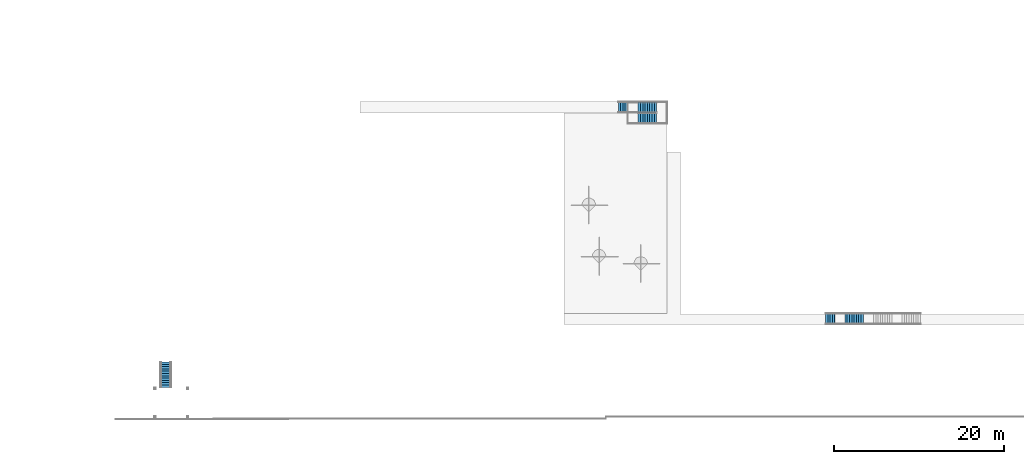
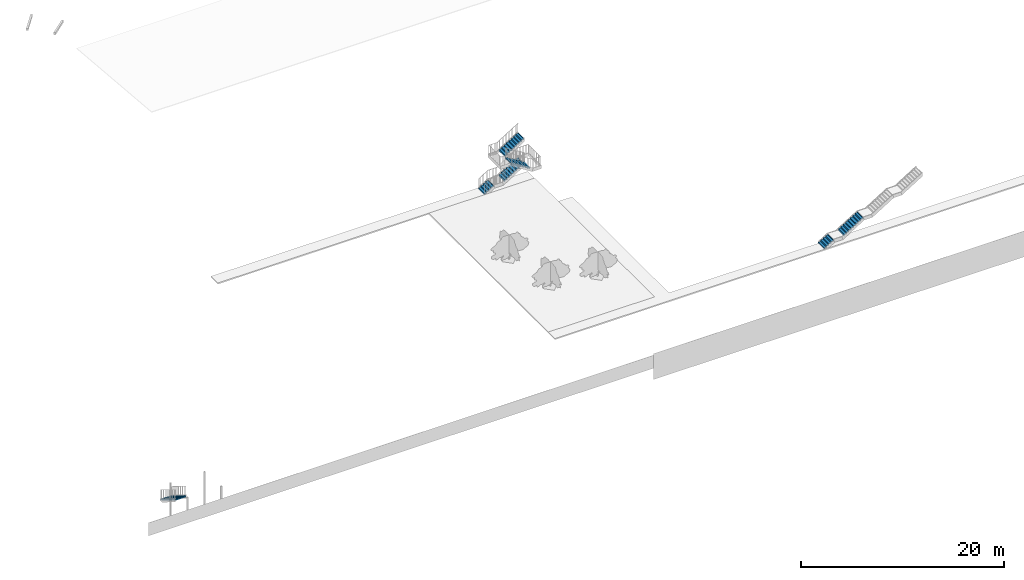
# One storey, part 7 of 16: 7 stair flights, 3 elements without a shape of their own.
"""IFC2X3 building model written with IfcOpenShell, lengths in millimetres."""

from ifc_helpers import new_model, entity, si_unit, converted_unit, derived_unit, direction, frame, frame_2d, origin, origin_2d_with_axis, place, context, subcontext, project, spatial, rectangle, extrude, element, aggregate, save


model = new_model("IFC2X3")

# Units and contexts
model_context = context("Model", 3, precision=0.01, world=origin(), true_north=direction((4.05803320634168e-15, -1.0)))
body_context = subcontext(model_context, "Body", "Model", "MODEL_VIEW")
ifc_project = project(units=[si_unit("LENGTHUNIT", "METRE", prefix="MILLI"), si_unit("AREAUNIT", "SQUARE_METRE"), si_unit("VOLUMEUNIT", "CUBIC_METRE"), converted_unit("PLANEANGLEUNIT", "DEGREE", entity("IfcRatioMeasure", 0.0174532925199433), si_unit("PLANEANGLEUNIT", "RADIAN"), dimensions=[0, 0, 0, 0, 0, 0, 0]), si_unit("MASSUNIT", "GRAM", prefix="KILO"), derived_unit("MASSDENSITYUNIT", [(si_unit("MASSUNIT", "GRAM", prefix="KILO"), 1), (si_unit("LENGTHUNIT", "METRE"), -3)]), si_unit("TIMEUNIT", "SECOND"), si_unit("FREQUENCYUNIT", "HERTZ"), si_unit("THERMODYNAMICTEMPERATUREUNIT", "DEGREE_CELSIUS"), derived_unit("THERMALTRANSMITTANCEUNIT", [(si_unit("MASSUNIT", "GRAM", prefix="KILO"), 1), (si_unit("THERMODYNAMICTEMPERATUREUNIT", "KELVIN"), -1), (si_unit("TIMEUNIT", "SECOND"), -3)]), derived_unit("VOLUMETRICFLOWRATEUNIT", [(si_unit("LENGTHUNIT", "METRE"), 3), (si_unit("TIMEUNIT", "SECOND"), -1)]), si_unit("ELECTRICCURRENTUNIT", "AMPERE"), si_unit("ELECTRICVOLTAGEUNIT", "VOLT"), si_unit("POWERUNIT", "WATT"), si_unit("FORCEUNIT", "NEWTON", prefix="KILO"), si_unit("ILLUMINANCEUNIT", "LUX"), si_unit("LUMINOUSFLUXUNIT", "LUMEN"), si_unit("LUMINOUSINTENSITYUNIT", "CANDELA"), derived_unit("USERDEFINED", [(si_unit("MASSUNIT", "GRAM", prefix="KILO"), -1), (si_unit("LENGTHUNIT", "METRE"), -2), (si_unit("TIMEUNIT", "SECOND"), 3), (si_unit("LUMINOUSFLUXUNIT", "LUMEN"), 1)]), derived_unit("LINEARVELOCITYUNIT", [(si_unit("LENGTHUNIT", "METRE"), 1), (si_unit("TIMEUNIT", "SECOND"), -1)]), si_unit("PRESSUREUNIT", "PASCAL"), derived_unit("USERDEFINED", [(si_unit("LENGTHUNIT", "METRE"), -2), (si_unit("MASSUNIT", "GRAM", prefix="KILO"), 1), (si_unit("TIMEUNIT", "SECOND"), -2)])], contexts=[model_context])

# Site, building, storey
site_placement = place(None, frame((927466.849349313, 583801.882853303, 0.0), z_axis=(0.0, 0.0, 1.0), x_axis=(-1.0, 0.0, 0.0)))
site = spatial("IfcSite", under=ifc_project, at=site_placement, Name="Surface", CompositionType="ELEMENT")
building_placement = place(site_placement, origin())
building = spatial("IfcBuilding", under=site, at=building_placement, CompositionType="ELEMENT")
storey_placement = place(building_placement, frame((0.0, 0.0, 42810.0)))
storey = spatial("IfcBuildingStorey", under=building, at=storey_placement, Name="Hardstand", CompositionType="ELEMENT", Elevation=42810.0)

# Stair, stair flights
stair_1_placement = place(storey_placement, origin())
stair_1 = element("IfcStair", 1, at=stair_1_placement, inside=storey, Name="Assembled Stair:Stair", ObjectType="Assembled Stair:170mm max riser 270mm going", ShapeType="NOTDEFINED")
stair_flight_1_placement = place(stair_1_placement, origin())
stair_flight_1 = element("IfcStairFlight", 2, at=stair_flight_1_placement, Name="Assembled Stair:Stair:622611 Run 3", ObjectType="Assembled Stair:170mm max riser 270mm going", NumberOfRiser=9, NumberOfTreads=8, RiserHeight=0.549540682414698, TreadLength=0.885826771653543, context=body_context, shape_type="SweptSolid", body=[
    extrude(rectangle(XDim=1200.0, YDim=12.5000000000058, at=origin_2d_with_axis()), frame((-100104.121944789, 37578.2777512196, 787.499999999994), z_axis=(0.0, 0.0, 1.0), x_axis=(0.0, -1.0, 0.0)), (0.0, 0.0, 1.0), 167.500000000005),
    extrude(rectangle(XDim=270.000000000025, YDim=1200.0, at=frame_2d((-8.66862137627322e-12, 0.0), x_axis=(1.0, 0.0))), frame((-100232.871944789, 37578.2777512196, 955.0)), (0.0, 0.0, 1.0), 49.9999999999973),
    extrude(rectangle(XDim=1200.0, YDim=12.5000000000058, at=frame_2d((0.0, 8.66329230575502e-12), x_axis=(1.0, 0.0))), frame((-100374.121944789, 37578.2777512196, 955.0), z_axis=(0.0, 0.0, 1.0), x_axis=(0.0, -1.0, 0.0)), (0.0, 0.0, 1.0), 167.500000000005),
    extrude(rectangle(XDim=269.999999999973, YDim=1200.0, at=frame_2d((1.73230318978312e-11, -4.32009983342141e-12), x_axis=(1.0, 0.0))), frame((-100502.871944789, 37578.2777512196, 1122.5)), (0.0, 0.0, 1.0), 49.9999999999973),
    extrude(rectangle(XDim=1200.0, YDim=12.5000000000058, at=frame_2d((0.0, 8.66329230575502e-12), x_axis=(1.0, 0.0))), frame((-100644.121944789, 37578.2777512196, 1122.5), z_axis=(0.0, 0.0, 1.0), x_axis=(0.0, -1.0, 0.0)), (0.0, 0.0, 1.0), 167.500000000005),
    extrude(rectangle(XDim=269.999999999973, YDim=1200.0, at=frame_2d((0.0, -4.32009983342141e-12), x_axis=(1.0, 0.0))), frame((-100772.871944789, 37578.2777512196, 1290.0)), (0.0, 0.0, 1.0), 49.9999999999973),
    extrude(rectangle(XDim=1200.0, YDim=12.5000000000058, at=frame_2d((0.0, 8.66329230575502e-12), x_axis=(1.0, 0.0))), frame((-100914.121944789, 37578.2777512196, 1290.0), z_axis=(0.0, 0.0, 1.0), x_axis=(0.0, -1.0, 0.0)), (0.0, 0.0, 1.0), 167.500000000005),
    extrude(rectangle(XDim=269.999999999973, YDim=1200.0, at=frame_2d((1.73230318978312e-11, -4.32009983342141e-12), x_axis=(1.0, 0.0))), frame((-101042.871944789, 37578.2777512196, 1457.50000000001)), (0.0, 0.0, 1.0), 49.9999999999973),
    extrude(rectangle(XDim=1200.0, YDim=12.5000000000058, at=frame_2d((0.0, -8.66329230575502e-12), x_axis=(1.0, 0.0))), frame((-101184.121944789, 37578.2777512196, 1457.5), z_axis=(0.0, 0.0, 1.0), x_axis=(0.0, -1.0, 0.0)), (0.0, 0.0, 1.0), 167.500000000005),
    extrude(rectangle(XDim=269.999999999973, YDim=1200.0, at=frame_2d((1.73230318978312e-11, -4.32009983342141e-12), x_axis=(1.0, 0.0))), frame((-101312.871944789, 37578.2777512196, 1625.0)), (0.0, 0.0, 1.0), 49.9999999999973),
    extrude(rectangle(XDim=1200.0, YDim=12.5000000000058, at=frame_2d((0.0, 8.66329230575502e-12), x_axis=(1.0, 0.0))), frame((-101454.121944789, 37578.2777512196, 1625.0), z_axis=(0.0, 0.0, 1.0), x_axis=(0.0, -1.0, 0.0)), (0.0, 0.0, 1.0), 167.500000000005),
    extrude(rectangle(XDim=269.999999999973, YDim=1200.0, at=frame_2d((0.0, -4.32009983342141e-12), x_axis=(1.0, 0.0))), frame((-101582.871944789, 37578.2777512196, 1792.5)), (0.0, 0.0, 1.0), 49.9999999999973),
    extrude(rectangle(XDim=1200.0, YDim=12.5000000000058, at=frame_2d((4.32009983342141e-12, -8.66329230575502e-12), x_axis=(1.0, 0.0))), frame((-101724.121944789, 37578.2777512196, 1792.5), z_axis=(0.0, 0.0, 1.0), x_axis=(0.0, -1.0, 0.0)), (0.0, 0.0, 1.0), 167.500000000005),
    extrude(rectangle(XDim=269.999999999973, YDim=1200.0, at=frame_2d((1.73230318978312e-11, -4.32009983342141e-12), x_axis=(1.0, 0.0))), frame((-101852.871944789, 37578.2777512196, 1960.0)), (0.0, 0.0, 1.0), 49.9999999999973),
    extrude(rectangle(XDim=1200.0, YDim=12.5000000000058, at=frame_2d((4.32009983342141e-12, -8.66329230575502e-12), x_axis=(1.0, 0.0))), frame((-101994.121944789, 37578.2777512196, 1960.0), z_axis=(0.0, 0.0, 1.0), x_axis=(0.0, -1.0, 0.0)), (0.0, 0.0, 1.0), 167.500000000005),
    extrude(rectangle(XDim=1200.0, YDim=12.5000000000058, at=origin_2d_with_axis()), frame((-102264.121944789, 37578.2777512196, 2127.5), z_axis=(0.0, 0.0, 1.0), x_axis=(0.0, -1.0, 0.0)), (0.0, 0.0, 1.0), 167.499999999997),
    extrude(rectangle(XDim=269.999999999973, YDim=1200.0, at=frame_2d((1.73230318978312e-11, -4.32009983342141e-12), x_axis=(1.0, 0.0))), frame((-102122.871944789, 37578.2777512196, 2127.5)), (0.0, 0.0, 1.0), 49.9999999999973),
])
stair_flight_2_placement = place(stair_1_placement, origin())
stair_flight_2 = element("IfcStairFlight", 3, at=stair_flight_2_placement, Name="Assembled Stair:Stair:622611 Run 4", ObjectType="Assembled Stair:170mm max riser 270mm going", NumberOfRiser=5, NumberOfTreads=4, RiserHeight=0.549540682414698, TreadLength=0.885826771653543, context=body_context, shape_type="SweptSolid", body=[
    extrude(rectangle(XDim=1200.0, YDim=12.5000000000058, at=frame_2d((-4.32009983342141e-12, 0.0), x_axis=(1.0, 0.0))), frame((-97824.1219447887, 37578.2777512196, 0.0), z_axis=(0.0, 0.0, 1.0), x_axis=(0.0, -1.0, 0.0)), (0.0, 0.0, 1.0), 117.499999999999),
    extrude(rectangle(XDim=270.000000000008, YDim=1200.0, at=frame_2d((0.0, 4.32009983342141e-12), x_axis=(1.0, 0.0))), frame((-97952.8719447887, 37578.2777512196, 117.499999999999)), (0.0, 0.0, 1.0), 49.9999999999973),
    extrude(rectangle(XDim=1200.0, YDim=12.5000000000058, at=frame_2d((-4.32009983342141e-12, 0.0), x_axis=(1.0, 0.0))), frame((-98094.1219447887, 37578.2777512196, 117.499999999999), z_axis=(0.0, 0.0, 1.0), x_axis=(0.0, -1.0, 0.0)), (0.0, 0.0, 1.0), 167.500000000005),
    extrude(rectangle(XDim=270.000000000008, YDim=1200.0, at=frame_2d((-1.73230318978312e-11, 0.0), x_axis=(1.0, 0.0))), frame((-98222.8719447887, 37578.2777512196, 285.0)), (0.0, 0.0, 1.0), 49.9999999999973),
    extrude(rectangle(XDim=1200.0, YDim=12.5000000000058, at=frame_2d((-4.32009983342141e-12, 0.0), x_axis=(1.0, 0.0))), frame((-98364.1219447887, 37578.2777512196, 285.0), z_axis=(0.0, 0.0, 1.0), x_axis=(0.0, -1.0, 0.0)), (0.0, 0.0, 1.0), 167.500000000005),
    extrude(rectangle(XDim=270.000000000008, YDim=1200.0, at=frame_2d((-1.73230318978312e-11, 0.0), x_axis=(1.0, 0.0))), frame((-98492.8719447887, 37578.2777512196, 452.500000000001)), (0.0, 0.0, 1.0), 49.9999999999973),
    extrude(rectangle(XDim=1200.0, YDim=12.5000000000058, at=frame_2d((-4.32009983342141e-12, 0.0), x_axis=(1.0, 0.0))), frame((-98634.1219447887, 37578.2777512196, 452.500000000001), z_axis=(0.0, 0.0, 1.0), x_axis=(0.0, -1.0, 0.0)), (0.0, 0.0, 1.0), 167.500000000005),
    extrude(rectangle(XDim=1200.0, YDim=12.5000000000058, at=origin_2d_with_axis()), frame((-98904.1219447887, 37578.2777512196, 620.0), z_axis=(0.0, 0.0, 1.0), x_axis=(0.0, -1.0, 0.0)), (0.0, 0.0, 1.0), 167.499999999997),
    extrude(rectangle(XDim=270.000000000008, YDim=1200.0, at=frame_2d((-1.73230318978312e-11, 0.0), x_axis=(1.0, 0.0))), frame((-98762.8719447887, 37578.2777512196, 620.0)), (0.0, 0.0, 1.0), 49.9999999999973),
])
aggregate(stair_1, [stair_flight_1, stair_flight_2])

# Stair, stair flight
stair_2_placement = place(storey_placement, origin())
stair_2 = element("IfcStair", 4, at=stair_2_placement, inside=storey, Name="Assembled Stair:Stair", ObjectType="Assembled Stair:170mm max riser 270mm going", ShapeType="NOTDEFINED")
stair_flight_3_placement = place(stair_2_placement, origin())
stair_flight_3 = element("IfcStairFlight", 5, at=stair_flight_3_placement, Name="Assembled Stair:Stair:712789 Run 1", ObjectType="Assembled Stair:170mm max riser 270mm going", NumberOfRiser=12, NumberOfTreads=11, RiserHeight=0.546806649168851, TreadLength=0.885826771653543, context=body_context, shape_type="SweptSolid", body=[
    extrude(rectangle(XDim=1200.0, YDim=12.4999999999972, at=frame_2d((0.0, -4.33164615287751e-12), x_axis=(1.0, 0.0))), frame((-20269.5693282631, 42675.7491707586, -90.0), z_axis=(0.0, 0.0, 1.0), x_axis=(-1.0, 0.0, 0.0)), (0.0, 0.0, 1.0), 116.666666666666),
    extrude(rectangle(XDim=269.999999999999, YDim=1200.0, at=frame_2d((-4.32009983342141e-12, 0.0), x_axis=(1.0, 0.0))), frame((-20269.5693282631, 42804.4991707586, 26.6666666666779), z_axis=(0.0, 0.0, 1.0), x_axis=(0.0, -1.0, 0.0)), (0.0, 0.0, 1.0), 49.9999999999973),
    extrude(rectangle(XDim=1200.0, YDim=12.4999999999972, at=frame_2d((0.0, 4.33164615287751e-12), x_axis=(1.0, 0.0))), frame((-20269.5693282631, 42945.7491707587, 26.6666666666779), z_axis=(0.0, 0.0, 1.0), x_axis=(-1.0, 0.0, 0.0)), (0.0, 0.0, 1.0), 166.666666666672),
    extrude(rectangle(XDim=269.999999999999, YDim=1200.0, at=frame_2d((4.32009983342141e-12, 0.0), x_axis=(1.0, 0.0))), frame((-20269.5693282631, 43074.4991707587, 193.33333333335), z_axis=(0.0, 0.0, 1.0), x_axis=(0.0, -1.0, 0.0)), (0.0, 0.0, 1.0), 49.9999999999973),
    extrude(rectangle(XDim=1200.0, YDim=12.4999999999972, at=frame_2d((0.0, 4.33164615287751e-12), x_axis=(1.0, 0.0))), frame((-20269.5693282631, 43215.7491707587, 193.333333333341), z_axis=(0.0, 0.0, 1.0), x_axis=(-1.0, 0.0, 0.0)), (0.0, 0.0, 1.0), 166.666666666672),
    extrude(rectangle(XDim=269.999999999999, YDim=1200.0, at=frame_2d((-4.32009983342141e-12, 0.0), x_axis=(1.0, 0.0))), frame((-20269.5693282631, 43344.4991707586, 360.0), z_axis=(0.0, 0.0, 1.0), x_axis=(0.0, -1.0, 0.0)), (0.0, 0.0, 1.0), 49.9999999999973),
    extrude(rectangle(XDim=1200.0, YDim=12.4999999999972, at=frame_2d((0.0, 4.33164615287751e-12), x_axis=(1.0, 0.0))), frame((-20269.5693282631, 43485.7491707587, 360.0), z_axis=(0.0, 0.0, 1.0), x_axis=(-1.0, 0.0, 0.0)), (0.0, 0.0, 1.0), 166.666666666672),
    extrude(rectangle(XDim=269.999999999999, YDim=1200.0, at=frame_2d((4.32009983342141e-12, 0.0), x_axis=(1.0, 0.0))), frame((-20269.5693282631, 43614.4991707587, 526.666666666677), z_axis=(0.0, 0.0, 1.0), x_axis=(0.0, -1.0, 0.0)), (0.0, 0.0, 1.0), 49.9999999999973),
    extrude(rectangle(XDim=1200.0, YDim=12.4999999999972, at=frame_2d((0.0, -4.33164615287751e-12), x_axis=(1.0, 0.0))), frame((-20269.5693282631, 43755.7491707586, 526.666666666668), z_axis=(0.0, 0.0, 1.0), x_axis=(-1.0, 0.0, 0.0)), (0.0, 0.0, 1.0), 166.666666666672),
    extrude(rectangle(XDim=269.999999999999, YDim=1200.0, at=frame_2d((-4.32009983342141e-12, 0.0), x_axis=(1.0, 0.0))), frame((-20269.5693282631, 43884.4991707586, 693.33333333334), z_axis=(0.0, 0.0, 1.0), x_axis=(0.0, -1.0, 0.0)), (0.0, 0.0, 1.0), 49.9999999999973),
    extrude(rectangle(XDim=1200.0, YDim=12.4999999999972, at=frame_2d((0.0, 4.33164615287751e-12), x_axis=(1.0, 0.0))), frame((-20269.5693282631, 44025.7491707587, 693.33333333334), z_axis=(0.0, 0.0, 1.0), x_axis=(-1.0, 0.0, 0.0)), (0.0, 0.0, 1.0), 166.666666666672),
    extrude(rectangle(XDim=269.999999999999, YDim=1200.0, at=frame_2d((4.32009983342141e-12, 0.0), x_axis=(1.0, 0.0))), frame((-20269.5693282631, 44154.4991707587, 860.0), z_axis=(0.0, 0.0, 1.0), x_axis=(0.0, -1.0, 0.0)), (0.0, 0.0, 1.0), 49.9999999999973),
    extrude(rectangle(XDim=1200.0, YDim=12.4999999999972, at=frame_2d((0.0, 4.33164615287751e-12), x_axis=(1.0, 0.0))), frame((-20269.5693282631, 44295.7491707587, 860.0), z_axis=(0.0, 0.0, 1.0), x_axis=(-1.0, 0.0, 0.0)), (0.0, 0.0, 1.0), 166.666666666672),
    extrude(rectangle(XDim=269.999999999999, YDim=1200.0, at=frame_2d((4.32009983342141e-12, 0.0), x_axis=(1.0, 0.0))), frame((-20269.5693282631, 44424.4991707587, 1026.66666666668), z_axis=(0.0, 0.0, 1.0), x_axis=(0.0, -1.0, 0.0)), (0.0, 0.0, 1.0), 49.9999999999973),
    extrude(rectangle(XDim=1200.0, YDim=12.4999999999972, at=frame_2d((0.0, 4.33164615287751e-12), x_axis=(1.0, 0.0))), frame((-20269.5693282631, 44565.7491707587, 1026.66666666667), z_axis=(0.0, 0.0, 1.0), x_axis=(-1.0, 0.0, 0.0)), (0.0, 0.0, 1.0), 166.666666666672),
    extrude(rectangle(XDim=269.999999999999, YDim=1200.0, at=frame_2d((-4.32009983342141e-12, 0.0), x_axis=(1.0, 0.0))), frame((-20269.5693282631, 44694.4991707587, 1193.33333333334), z_axis=(0.0, 0.0, 1.0), x_axis=(0.0, -1.0, 0.0)), (0.0, 0.0, 1.0), 49.9999999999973),
    extrude(rectangle(XDim=1200.0, YDim=12.4999999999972, at=frame_2d((0.0, 4.33164615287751e-12), x_axis=(1.0, 0.0))), frame((-20269.5693282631, 44835.7491707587, 1193.33333333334), z_axis=(0.0, 0.0, 1.0), x_axis=(-1.0, 0.0, 0.0)), (0.0, 0.0, 1.0), 166.666666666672),
    extrude(rectangle(XDim=269.999999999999, YDim=1200.0, at=frame_2d((4.32009983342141e-12, 0.0), x_axis=(1.0, 0.0))), frame((-20269.5693282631, 44964.4991707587, 1360.0), z_axis=(0.0, 0.0, 1.0), x_axis=(0.0, -1.0, 0.0)), (0.0, 0.0, 1.0), 49.9999999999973),
    extrude(rectangle(XDim=1200.0, YDim=12.4999999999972, at=frame_2d((0.0, -4.33164615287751e-12), x_axis=(1.0, 0.0))), frame((-20269.5693282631, 45105.7491707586, 1360.0), z_axis=(0.0, 0.0, 1.0), x_axis=(-1.0, 0.0, 0.0)), (0.0, 0.0, 1.0), 166.666666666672),
    extrude(rectangle(XDim=269.999999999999, YDim=1200.0, at=frame_2d((-4.32009983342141e-12, 0.0), x_axis=(1.0, 0.0))), frame((-20269.5693282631, 45234.4991707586, 1526.66666666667), z_axis=(0.0, 0.0, 1.0), x_axis=(0.0, -1.0, 0.0)), (0.0, 0.0, 1.0), 49.9999999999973),
    extrude(rectangle(XDim=1200.0, YDim=12.4999999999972, at=frame_2d((0.0, 4.33164615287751e-12), x_axis=(1.0, 0.0))), frame((-20269.5693282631, 45375.7491707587, 1526.66666666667), z_axis=(0.0, 0.0, 1.0), x_axis=(-1.0, 0.0, 0.0)), (0.0, 0.0, 1.0), 166.666666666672),
    extrude(rectangle(XDim=1200.0, YDim=12.4999999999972, at=frame_2d((0.0, 4.33164615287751e-12), x_axis=(1.0, 0.0))), frame((-20269.5693282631, 45645.7491707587, 1693.33333333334), z_axis=(0.0, 0.0, 1.0), x_axis=(-1.0, 0.0, 0.0)), (0.0, 0.0, 1.0), 166.666666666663),
    extrude(rectangle(XDim=269.999999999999, YDim=1200.0, at=frame_2d((4.32009983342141e-12, 0.0), x_axis=(1.0, 0.0))), frame((-20269.5693282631, 45504.4991707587, 1693.33333333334), z_axis=(0.0, 0.0, 1.0), x_axis=(0.0, -1.0, 0.0)), (0.0, 0.0, 1.0), 49.9999999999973),
])
aggregate(stair_2, [stair_flight_3])

# Stair, stair flights
stair_3_placement = place(storey_placement, origin())
stair_3 = element("IfcStair", 6, at=stair_3_placement, inside=storey, Name="Assembled Stair:Stair", ObjectType="Assembled Stair:170mm max riser 270mm going", ShapeType="NOTDEFINED")
stair_flight_4_placement = place(stair_3_placement, origin())
stair_flight_4 = element("IfcStairFlight", 7, at=stair_flight_4_placement, Name="Assembled Stair:Stair:767068 Run 1", ObjectType="Assembled Stair:170mm max riser 270mm going", NumberOfRiser=9, NumberOfTreads=8, RiserHeight=0.549540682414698, TreadLength=0.885826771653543, context=body_context, shape_type="SweptSolid", body=[
    extrude(rectangle(XDim=1200.0, YDim=12.4999999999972, at=frame_2d((0.0, -4.33164615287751e-12), x_axis=(1.0, 0.0))), frame((-75804.8413038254, 12792.1710387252, 3802.49999999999), z_axis=(0.0, 0.0, 1.0), x_axis=(0.0, -1.0, 0.0)), (0.0, 0.0, 1.0), 167.500000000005),
    extrude(rectangle(XDim=270.000000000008, YDim=1200.0, at=origin_2d_with_axis()), frame((-75933.5913038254, 12792.1710387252, 3970.0)), (0.0, 0.0, 1.0), 49.9999999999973),
    extrude(rectangle(XDim=1200.0, YDim=12.4999999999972, at=origin_2d_with_axis()), frame((-76074.8413038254, 12792.1710387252, 3970.0), z_axis=(0.0, 0.0, 1.0), x_axis=(0.0, -1.0, 0.0)), (0.0, 0.0, 1.0), 167.500000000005),
    extrude(rectangle(XDim=269.999999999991, YDim=1200.0, at=frame_2d((0.0, 1.08002495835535e-12), x_axis=(1.0, 0.0))), frame((-76203.5913038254, 12792.1710387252, 4137.5)), (0.0, 0.0, 1.0), 49.9999999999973),
    extrude(rectangle(XDim=1200.0, YDim=12.4999999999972, at=frame_2d((0.0, -8.66284821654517e-12), x_axis=(1.0, 0.0))), frame((-76344.8413038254, 12792.1710387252, 4137.49999999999), z_axis=(0.0, 0.0, 1.0), x_axis=(0.0, -1.0, 0.0)), (0.0, 0.0, 1.0), 167.500000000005),
    extrude(rectangle(XDim=269.999999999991, YDim=1200.0, at=frame_2d((0.0, 1.08002495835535e-12), x_axis=(1.0, 0.0))), frame((-76473.5913038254, 12792.1710387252, 4305.0)), (0.0, 0.0, 1.0), 49.9999999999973),
    extrude(rectangle(XDim=1200.0, YDim=12.4999999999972, at=origin_2d_with_axis()), frame((-76614.8413038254, 12792.1710387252, 4305.0), z_axis=(0.0, 0.0, 1.0), x_axis=(0.0, -1.0, 0.0)), (0.0, 0.0, 1.0), 167.500000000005),
    extrude(rectangle(XDim=269.999999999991, YDim=1200.0, at=frame_2d((0.0, 1.08002495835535e-12), x_axis=(1.0, 0.0))), frame((-76743.5913038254, 12792.1710387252, 4472.50000000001)), (0.0, 0.0, 1.0), 49.9999999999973),
    extrude(rectangle(XDim=1200.0, YDim=12.4999999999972, at=origin_2d_with_axis()), frame((-76884.8413038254, 12792.1710387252, 4472.5), z_axis=(0.0, 0.0, 1.0), x_axis=(0.0, -1.0, 0.0)), (0.0, 0.0, 1.0), 167.500000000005),
    extrude(rectangle(XDim=269.999999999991, YDim=1200.0, at=frame_2d((8.65441052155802e-12, 1.08002495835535e-12), x_axis=(1.0, 0.0))), frame((-77013.5913038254, 12792.1710387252, 4640.0)), (0.0, 0.0, 1.0), 49.9999999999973),
    extrude(rectangle(XDim=1200.0, YDim=12.4999999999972, at=origin_2d_with_axis()), frame((-77154.8413038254, 12792.1710387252, 4640.0), z_axis=(0.0, 0.0, 1.0), x_axis=(0.0, -1.0, 0.0)), (0.0, 0.0, 1.0), 167.500000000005),
    extrude(rectangle(XDim=269.999999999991, YDim=1200.0, at=frame_2d((0.0, 1.08002495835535e-12), x_axis=(1.0, 0.0))), frame((-77283.5913038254, 12792.1710387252, 4807.5)), (0.0, 0.0, 1.0), 49.9999999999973),
    extrude(rectangle(XDim=1200.0, YDim=12.4999999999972, at=origin_2d_with_axis()), frame((-77424.8413038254, 12792.1710387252, 4807.5), z_axis=(0.0, 0.0, 1.0), x_axis=(0.0, -1.0, 0.0)), (0.0, 0.0, 1.0), 167.500000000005),
    extrude(rectangle(XDim=269.999999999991, YDim=1200.0, at=frame_2d((8.65441052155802e-12, -1.08002495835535e-12), x_axis=(1.0, 0.0))), frame((-77553.5913038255, 12792.1710387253, 4975.0)), (0.0, 0.0, 1.0), 49.9999999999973),
    extrude(rectangle(XDim=1200.0, YDim=12.4999999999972, at=frame_2d((0.0, -8.66284821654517e-12), x_axis=(1.0, 0.0))), frame((-77694.8413038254, 12792.1710387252, 4975.0), z_axis=(0.0, 0.0, 1.0), x_axis=(0.0, -1.0, 0.0)), (0.0, 0.0, 1.0), 167.500000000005),
    extrude(rectangle(XDim=1200.0, YDim=12.4999999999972, at=frame_2d((0.0, -4.33164615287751e-12), x_axis=(1.0, 0.0))), frame((-77964.8413038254, 12792.1710387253, 5142.5), z_axis=(0.0, 0.0, 1.0), x_axis=(0.0, -1.0, 0.0)), (0.0, 0.0, 1.0), 167.499999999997),
    extrude(rectangle(XDim=269.999999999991, YDim=1200.0, at=frame_2d((0.0, -1.08002495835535e-12), x_axis=(1.0, 0.0))), frame((-77823.5913038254, 12792.1710387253, 5142.5)), (0.0, 0.0, 1.0), 49.9999999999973),
])
stair_flight_5_placement = place(stair_3_placement, origin())
stair_flight_5 = element("IfcStairFlight", 8, at=stair_flight_5_placement, Name="Assembled Stair:Stair:767068 Run 2", ObjectType="Assembled Stair:170mm max riser 270mm going", NumberOfRiser=9, NumberOfTreads=8, RiserHeight=0.549540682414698, TreadLength=0.885826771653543, context=body_context, shape_type="SweptSolid", body=[
    extrude(rectangle(XDim=1200.0, YDim=12.4999999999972, at=frame_2d((0.0, -4.33164615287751e-12), x_axis=(1.0, 0.0))), frame((-77952.3413038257, 13992.1710387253, 2295.0), z_axis=(0.0, 0.0, 1.0), x_axis=(0.0, 1.0, 0.0)), (0.0, 0.0, 1.0), 167.500000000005),
    extrude(rectangle(XDim=270.000000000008, YDim=1200.0, at=origin_2d_with_axis()), frame((-77823.5913038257, 13992.1710387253, 2462.5), z_axis=(0.0, 0.0, 1.0), x_axis=(-1.0, 0.0, 0.0)), (0.0, 0.0, 1.0), 49.9999999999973),
    extrude(rectangle(XDim=1200.0, YDim=12.4999999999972, at=origin_2d_with_axis()), frame((-77682.3413038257, 13992.1710387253, 2462.5), z_axis=(0.0, 0.0, 1.0), x_axis=(0.0, 1.0, 0.0)), (0.0, 0.0, 1.0), 167.500000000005),
    extrude(rectangle(XDim=269.999999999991, YDim=1200.0, at=frame_2d((0.0, 1.08002495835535e-12), x_axis=(1.0, 0.0))), frame((-77553.5913038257, 13992.1710387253, 2630.0), z_axis=(0.0, 0.0, 1.0), x_axis=(-1.0, 0.0, 0.0)), (0.0, 0.0, 1.0), 49.9999999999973),
    extrude(rectangle(XDim=1200.0, YDim=12.4999999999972, at=frame_2d((0.0, -8.66284821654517e-12), x_axis=(1.0, 0.0))), frame((-77412.3413038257, 13992.1710387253, 2630.0), z_axis=(0.0, 0.0, 1.0), x_axis=(0.0, 1.0, 0.0)), (0.0, 0.0, 1.0), 167.500000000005),
    extrude(rectangle(XDim=269.999999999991, YDim=1200.0, at=frame_2d((0.0, 1.08002495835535e-12), x_axis=(1.0, 0.0))), frame((-77283.5913038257, 13992.1710387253, 2797.50000000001), z_axis=(0.0, 0.0, 1.0), x_axis=(-1.0, 0.0, 0.0)), (0.0, 0.0, 1.0), 49.9999999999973),
    extrude(rectangle(XDim=1200.0, YDim=12.4999999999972, at=origin_2d_with_axis()), frame((-77142.3413038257, 13992.1710387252, 2797.50000000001), z_axis=(0.0, 0.0, 1.0), x_axis=(0.0, 1.0, 0.0)), (0.0, 0.0, 1.0), 167.500000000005),
    extrude(rectangle(XDim=269.999999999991, YDim=1200.0, at=frame_2d((0.0, 1.08002495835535e-12), x_axis=(1.0, 0.0))), frame((-77013.5913038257, 13992.1710387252, 2965.0), z_axis=(0.0, 0.0, 1.0), x_axis=(-1.0, 0.0, 0.0)), (0.0, 0.0, 1.0), 49.9999999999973),
    extrude(rectangle(XDim=1200.0, YDim=12.4999999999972, at=origin_2d_with_axis()), frame((-76872.3413038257, 13992.1710387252, 2965.0), z_axis=(0.0, 0.0, 1.0), x_axis=(0.0, 1.0, 0.0)), (0.0, 0.0, 1.0), 167.500000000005),
    extrude(rectangle(XDim=269.999999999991, YDim=1200.0, at=frame_2d((8.65441052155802e-12, 1.08002495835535e-12), x_axis=(1.0, 0.0))), frame((-76743.5913038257, 13992.1710387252, 3132.50000000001), z_axis=(0.0, 0.0, 1.0), x_axis=(-1.0, 0.0, 0.0)), (0.0, 0.0, 1.0), 49.9999999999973),
    extrude(rectangle(XDim=1200.0, YDim=12.4999999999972, at=origin_2d_with_axis()), frame((-76602.3413038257, 13992.1710387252, 3132.5), z_axis=(0.0, 0.0, 1.0), x_axis=(0.0, 1.0, 0.0)), (0.0, 0.0, 1.0), 167.500000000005),
    extrude(rectangle(XDim=269.999999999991, YDim=1200.0, at=frame_2d((0.0, 1.08002495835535e-12), x_axis=(1.0, 0.0))), frame((-76473.5913038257, 13992.1710387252, 3300.0), z_axis=(0.0, 0.0, 1.0), x_axis=(-1.0, 0.0, 0.0)), (0.0, 0.0, 1.0), 49.9999999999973),
    extrude(rectangle(XDim=1200.0, YDim=12.4999999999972, at=frame_2d((-2.1600499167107e-12, 0.0), x_axis=(1.0, 0.0))), frame((-76332.3413038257, 13992.1710387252, 3300.0), z_axis=(0.0, 0.0, 1.0), x_axis=(0.0, 1.0, 0.0)), (0.0, 0.0, 1.0), 167.500000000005),
    extrude(rectangle(XDim=269.999999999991, YDim=1200.0, at=frame_2d((8.65441052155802e-12, 1.08002495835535e-12), x_axis=(1.0, 0.0))), frame((-76203.5913038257, 13992.1710387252, 3467.50000000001), z_axis=(0.0, 0.0, 1.0), x_axis=(-1.0, 0.0, 0.0)), (0.0, 0.0, 1.0), 49.9999999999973),
    extrude(rectangle(XDim=1200.0, YDim=12.4999999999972, at=frame_2d((-2.1600499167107e-12, -8.66284821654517e-12), x_axis=(1.0, 0.0))), frame((-76062.3413038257, 13992.1710387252, 3467.5), z_axis=(0.0, 0.0, 1.0), x_axis=(0.0, 1.0, 0.0)), (0.0, 0.0, 1.0), 167.500000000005),
    extrude(rectangle(XDim=1200.0, YDim=12.4999999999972, at=frame_2d((0.0, -4.33164615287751e-12), x_axis=(1.0, 0.0))), frame((-75792.3413038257, 13992.1710387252, 3635.0), z_axis=(0.0, 0.0, 1.0), x_axis=(0.0, 1.0, 0.0)), (0.0, 0.0, 1.0), 167.499999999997),
    extrude(rectangle(XDim=269.999999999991, YDim=1200.0, at=frame_2d((0.0, 1.08002495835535e-12), x_axis=(1.0, 0.0))), frame((-75933.5913038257, 13992.1710387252, 3635.0), z_axis=(0.0, 0.0, 1.0), x_axis=(-1.0, 0.0, 0.0)), (0.0, 0.0, 1.0), 49.9999999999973),
])
stair_flight_6_placement = place(stair_3_placement, origin())
stair_flight_6 = element("IfcStairFlight", 9, at=stair_flight_6_placement, Name="Assembled Stair:Stair:767068 Run 3", ObjectType="Assembled Stair:170mm max riser 270mm going", NumberOfRiser=9, NumberOfTreads=8, RiserHeight=0.549540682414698, TreadLength=0.885826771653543, context=body_context, shape_type="SweptSolid", body=[
    extrude(rectangle(XDim=1200.0, YDim=12.4999999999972, at=frame_2d((0.0, -4.33164615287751e-12), x_axis=(1.0, 0.0))), frame((-75804.8413038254, 12742.1710387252, 787.499999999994), z_axis=(0.0, 0.0, 1.0), x_axis=(0.0, -1.0, 0.0)), (0.0, 0.0, 1.0), 167.500000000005),
    extrude(rectangle(XDim=270.000000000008, YDim=1200.0, at=origin_2d_with_axis()), frame((-75933.5913038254, 12742.1710387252, 955.0)), (0.0, 0.0, 1.0), 49.9999999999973),
    extrude(rectangle(XDim=1200.0, YDim=12.4999999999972, at=origin_2d_with_axis()), frame((-76074.8413038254, 12742.1710387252, 955.0), z_axis=(0.0, 0.0, 1.0), x_axis=(0.0, -1.0, 0.0)), (0.0, 0.0, 1.0), 167.500000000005),
    extrude(rectangle(XDim=269.999999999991, YDim=1200.0, at=frame_2d((0.0, 1.08002495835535e-12), x_axis=(1.0, 0.0))), frame((-76203.5913038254, 12742.1710387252, 1122.5)), (0.0, 0.0, 1.0), 49.9999999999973),
    extrude(rectangle(XDim=1200.0, YDim=12.4999999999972, at=frame_2d((0.0, -8.66284821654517e-12), x_axis=(1.0, 0.0))), frame((-76344.8413038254, 12742.1710387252, 1122.5), z_axis=(0.0, 0.0, 1.0), x_axis=(0.0, -1.0, 0.0)), (0.0, 0.0, 1.0), 167.500000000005),
    extrude(rectangle(XDim=269.999999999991, YDim=1200.0, at=frame_2d((0.0, 1.08002495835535e-12), x_axis=(1.0, 0.0))), frame((-76473.5913038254, 12742.1710387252, 1290.0)), (0.0, 0.0, 1.0), 49.9999999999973),
    extrude(rectangle(XDim=1200.0, YDim=12.4999999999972, at=origin_2d_with_axis()), frame((-76614.8413038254, 12742.1710387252, 1290.0), z_axis=(0.0, 0.0, 1.0), x_axis=(0.0, -1.0, 0.0)), (0.0, 0.0, 1.0), 167.500000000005),
    extrude(rectangle(XDim=269.999999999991, YDim=1200.0, at=frame_2d((0.0, 1.08002495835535e-12), x_axis=(1.0, 0.0))), frame((-76743.5913038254, 12742.1710387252, 1457.50000000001)), (0.0, 0.0, 1.0), 49.9999999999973),
    extrude(rectangle(XDim=1200.0, YDim=12.4999999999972, at=origin_2d_with_axis()), frame((-76884.8413038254, 12742.1710387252, 1457.5), z_axis=(0.0, 0.0, 1.0), x_axis=(0.0, -1.0, 0.0)), (0.0, 0.0, 1.0), 167.500000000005),
    extrude(rectangle(XDim=269.999999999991, YDim=1200.0, at=frame_2d((8.65441052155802e-12, 1.08002495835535e-12), x_axis=(1.0, 0.0))), frame((-77013.5913038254, 12742.1710387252, 1625.0)), (0.0, 0.0, 1.0), 49.9999999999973),
    extrude(rectangle(XDim=1200.0, YDim=12.4999999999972, at=origin_2d_with_axis()), frame((-77154.8413038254, 12742.1710387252, 1625.0), z_axis=(0.0, 0.0, 1.0), x_axis=(0.0, -1.0, 0.0)), (0.0, 0.0, 1.0), 167.500000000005),
    extrude(rectangle(XDim=269.999999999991, YDim=1200.0, at=frame_2d((0.0, 1.08002495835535e-12), x_axis=(1.0, 0.0))), frame((-77283.5913038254, 12742.1710387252, 1792.5)), (0.0, 0.0, 1.0), 49.9999999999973),
    extrude(rectangle(XDim=1200.0, YDim=12.4999999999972, at=origin_2d_with_axis()), frame((-77424.8413038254, 12742.1710387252, 1792.5), z_axis=(0.0, 0.0, 1.0), x_axis=(0.0, -1.0, 0.0)), (0.0, 0.0, 1.0), 167.500000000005),
    extrude(rectangle(XDim=269.999999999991, YDim=1200.0, at=frame_2d((8.65441052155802e-12, 1.08002495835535e-12), x_axis=(1.0, 0.0))), frame((-77553.5913038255, 12742.1710387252, 1960.0)), (0.0, 0.0, 1.0), 49.9999999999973),
    extrude(rectangle(XDim=1200.0, YDim=12.4999999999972, at=frame_2d((0.0, -8.66284821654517e-12), x_axis=(1.0, 0.0))), frame((-77694.8413038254, 12742.1710387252, 1960.0), z_axis=(0.0, 0.0, 1.0), x_axis=(0.0, -1.0, 0.0)), (0.0, 0.0, 1.0), 167.500000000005),
    extrude(rectangle(XDim=1200.0, YDim=12.4999999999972, at=frame_2d((0.0, -4.33164615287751e-12), x_axis=(1.0, 0.0))), frame((-77964.8413038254, 12742.1710387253, 2127.5), z_axis=(0.0, 0.0, 1.0), x_axis=(0.0, -1.0, 0.0)), (0.0, 0.0, 1.0), 167.499999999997),
    extrude(rectangle(XDim=269.999999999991, YDim=1200.0, at=frame_2d((0.0, 1.08002495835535e-12), x_axis=(1.0, 0.0))), frame((-77823.5913038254, 12742.1710387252, 2127.5)), (0.0, 0.0, 1.0), 49.9999999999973),
])
stair_flight_7_placement = place(stair_3_placement, origin())
stair_flight_7 = element("IfcStairFlight", 10, at=stair_flight_7_placement, Name="Assembled Stair:Stair:767068 Run 4", ObjectType="Assembled Stair:170mm max riser 270mm going", NumberOfRiser=5, NumberOfTreads=4, RiserHeight=0.549540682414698, TreadLength=0.885826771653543, context=body_context, shape_type="SweptSolid", body=[
    extrude(rectangle(XDim=1200.0, YDim=12.4999999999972, at=frame_2d((0.0, -4.33164615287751e-12), x_axis=(1.0, 0.0))), frame((-73474.8413038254, 12742.1710387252, 0.0), z_axis=(0.0, 0.0, 1.0), x_axis=(0.0, -1.0, 0.0)), (0.0, 0.0, 1.0), 117.499999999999),
    extrude(rectangle(XDim=269.999999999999, YDim=1200.0, at=frame_2d((4.32009983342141e-12, 0.0), x_axis=(1.0, 0.0))), frame((-73603.5913038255, 12742.1710387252, 117.499999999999)), (0.0, 0.0, 1.0), 49.9999999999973),
    extrude(rectangle(XDim=1200.0, YDim=12.4999999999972, at=frame_2d((0.0, 4.33164615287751e-12), x_axis=(1.0, 0.0))), frame((-73744.8413038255, 12742.1710387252, 117.499999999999), z_axis=(0.0, 0.0, 1.0), x_axis=(0.0, -1.0, 0.0)), (0.0, 0.0, 1.0), 167.500000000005),
    extrude(rectangle(XDim=270.000000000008, YDim=1200.0, at=frame_2d((-8.65441052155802e-12, 1.08002495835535e-12), x_axis=(1.0, 0.0))), frame((-73873.5913038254, 12742.1710387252, 285.0)), (0.0, 0.0, 1.0), 49.9999999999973),
    extrude(rectangle(XDim=1200.0, YDim=12.4999999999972, at=frame_2d((0.0, -4.33164615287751e-12), x_axis=(1.0, 0.0))), frame((-74014.8413038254, 12742.1710387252, 285.0), z_axis=(0.0, 0.0, 1.0), x_axis=(0.0, -1.0, 0.0)), (0.0, 0.0, 1.0), 167.500000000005),
    extrude(rectangle(XDim=270.000000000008, YDim=1200.0, at=frame_2d((0.0, 1.08002495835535e-12), x_axis=(1.0, 0.0))), frame((-74143.5913038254, 12742.1710387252, 452.500000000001)), (0.0, 0.0, 1.0), 49.9999999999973),
    extrude(rectangle(XDim=1200.0, YDim=12.4999999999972, at=frame_2d((0.0, -4.33164615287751e-12), x_axis=(1.0, 0.0))), frame((-74284.8413038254, 12742.1710387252, 452.500000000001), z_axis=(0.0, 0.0, 1.0), x_axis=(0.0, -1.0, 0.0)), (0.0, 0.0, 1.0), 167.500000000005),
    extrude(rectangle(XDim=1200.0, YDim=12.4999999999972, at=frame_2d((0.0, 4.33164615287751e-12), x_axis=(1.0, 0.0))), frame((-74554.8413038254, 12742.1710387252, 620.0), z_axis=(0.0, 0.0, 1.0), x_axis=(0.0, -1.0, 0.0)), (0.0, 0.0, 1.0), 167.499999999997),
    extrude(rectangle(XDim=270.000000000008, YDim=1200.0, at=frame_2d((0.0, 1.08002495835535e-12), x_axis=(1.0, 0.0))), frame((-74413.5913038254, 12742.1710387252, 620.0)), (0.0, 0.0, 1.0), 49.9999999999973),
])
aggregate(stair_3, [stair_flight_4, stair_flight_5, stair_flight_6, stair_flight_7])

save(model, "model.ifc")
